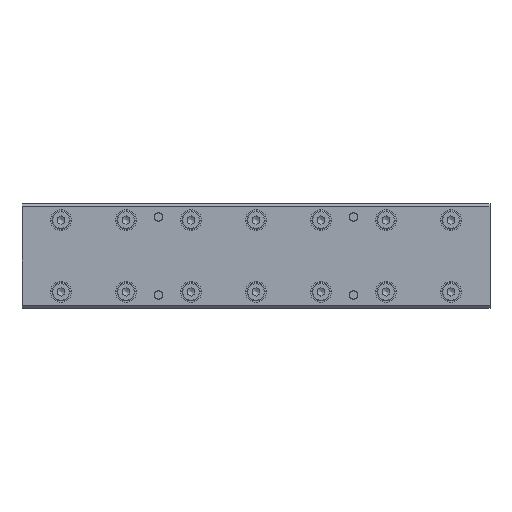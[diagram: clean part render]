
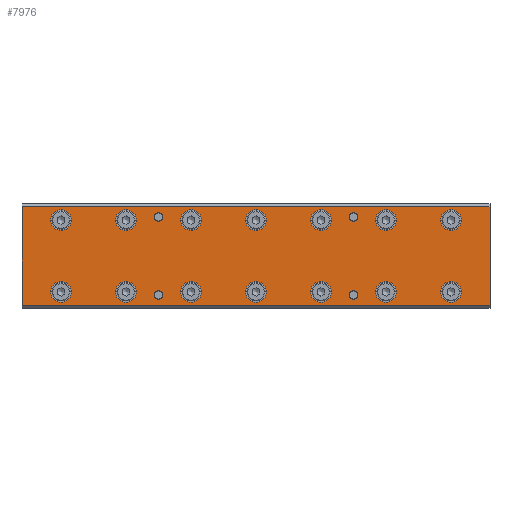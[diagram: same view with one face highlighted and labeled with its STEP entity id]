
A CAD part, top view. The second image highlights one B-rep face of the part: STEP entity #7976.
In plain terms, the highlighted planar face has unit normal (0, 0, 1).
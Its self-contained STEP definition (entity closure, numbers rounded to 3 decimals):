
#6554=CARTESIAN_POINT('',(180.0,19.,10.));
#6555=VERTEX_POINT('',#6554);
#6562=CARTESIAN_POINT('',(180.0,-19.,10.));
#6563=VERTEX_POINT('',#6562);
#6564=CARTESIAN_POINT('',(180.0,-19.,10.));
#6565=DIRECTION('',(0.0,1.0,0.0));
#6566=VECTOR('',#6565,38.0);
#6567=LINE('',#6564,#6566);
#6568=EDGE_CURVE('',#6563,#6555,#6567,.T.);
#6707=CARTESIAN_POINT('',(19.,-13.8,10.0));
#6708=VERTEX_POINT('',#6707);
#6709=CARTESIAN_POINT('',(15.,-13.8,10.));
#6710=DIRECTION('',(0.0,0.0,-1.0));
#6711=DIRECTION('',(1.0,0.0,0.0));
#6712=AXIS2_PLACEMENT_3D('',#6709,#6710,#6711);
#6713=CIRCLE('',#6712,4.0);
#6714=EDGE_CURVE('',#6708,#6708,#6713,.T.);
#6776=CARTESIAN_POINT('',(19.0,13.8,10.));
#6777=VERTEX_POINT('',#6776);
#6778=CARTESIAN_POINT('',(15.0,13.8,10.));
#6779=DIRECTION('',(0.0,0.0,-1.0));
#6780=DIRECTION('',(1.0,0.0,0.0));
#6781=AXIS2_PLACEMENT_3D('',#6778,#6779,#6780);
#6782=CIRCLE('',#6781,4.0);
#6783=EDGE_CURVE('',#6777,#6777,#6782,.T.);
#6857=CARTESIAN_POINT('',(44.0,-13.8,10.0));
#6858=VERTEX_POINT('',#6857);
#6859=CARTESIAN_POINT('',(40.,-13.8,10.));
#6860=DIRECTION('',(0.0,0.0,-1.0));
#6861=DIRECTION('',(1.0,0.0,0.0));
#6862=AXIS2_PLACEMENT_3D('',#6859,#6860,#6861);
#6863=CIRCLE('',#6862,4.0);
#6864=EDGE_CURVE('',#6858,#6858,#6863,.T.);
#6898=CARTESIAN_POINT('',(44.0,13.8,10.));
#6899=VERTEX_POINT('',#6898);
#6900=CARTESIAN_POINT('',(40.0,13.8,10.));
#6901=DIRECTION('',(0.0,0.0,-1.0));
#6902=DIRECTION('',(1.0,0.0,0.0));
#6903=AXIS2_PLACEMENT_3D('',#6900,#6901,#6902);
#6904=CIRCLE('',#6903,4.0);
#6905=EDGE_CURVE('',#6899,#6899,#6904,.T.);
#6979=CARTESIAN_POINT('',(69.0,-13.8,10.0));
#6980=VERTEX_POINT('',#6979);
#6981=CARTESIAN_POINT('',(65.,-13.8,10.));
#6982=DIRECTION('',(0.0,0.0,-1.0));
#6983=DIRECTION('',(1.0,0.0,0.0));
#6984=AXIS2_PLACEMENT_3D('',#6981,#6982,#6983);
#6985=CIRCLE('',#6984,4.0);
#6986=EDGE_CURVE('',#6980,#6980,#6985,.T.);
#7020=CARTESIAN_POINT('',(69.0,13.8,10.));
#7021=VERTEX_POINT('',#7020);
#7022=CARTESIAN_POINT('',(65.0,13.8,10.));
#7023=DIRECTION('',(0.0,0.0,-1.0));
#7024=DIRECTION('',(1.0,0.0,0.0));
#7025=AXIS2_PLACEMENT_3D('',#7022,#7023,#7024);
#7026=CIRCLE('',#7025,4.0);
#7027=EDGE_CURVE('',#7021,#7021,#7026,.T.);
#7101=CARTESIAN_POINT('',(94.0,-13.8,10.0));
#7102=VERTEX_POINT('',#7101);
#7103=CARTESIAN_POINT('',(90.0,-13.8,10.));
#7104=DIRECTION('',(0.0,0.0,-1.0));
#7105=DIRECTION('',(1.0,0.0,0.0));
#7106=AXIS2_PLACEMENT_3D('',#7103,#7104,#7105);
#7107=CIRCLE('',#7106,4.0);
#7108=EDGE_CURVE('',#7102,#7102,#7107,.T.);
#7142=CARTESIAN_POINT('',(94.0,13.8,10.));
#7143=VERTEX_POINT('',#7142);
#7144=CARTESIAN_POINT('',(90.0,13.8,10.));
#7145=DIRECTION('',(0.0,0.0,-1.0));
#7146=DIRECTION('',(1.0,0.0,0.0));
#7147=AXIS2_PLACEMENT_3D('',#7144,#7145,#7146);
#7148=CIRCLE('',#7147,4.0);
#7149=EDGE_CURVE('',#7143,#7143,#7148,.T.);
#7223=CARTESIAN_POINT('',(119.0,-13.8,10.0));
#7224=VERTEX_POINT('',#7223);
#7225=CARTESIAN_POINT('',(115.0,-13.8,10.));
#7226=DIRECTION('',(0.0,0.0,-1.0));
#7227=DIRECTION('',(1.0,0.0,0.0));
#7228=AXIS2_PLACEMENT_3D('',#7225,#7226,#7227);
#7229=CIRCLE('',#7228,4.0);
#7230=EDGE_CURVE('',#7224,#7224,#7229,.T.);
#7264=CARTESIAN_POINT('',(119.0,13.8,10.));
#7265=VERTEX_POINT('',#7264);
#7266=CARTESIAN_POINT('',(115.0,13.8,10.));
#7267=DIRECTION('',(0.0,0.0,-1.0));
#7268=DIRECTION('',(1.0,0.0,0.0));
#7269=AXIS2_PLACEMENT_3D('',#7266,#7267,#7268);
#7270=CIRCLE('',#7269,4.0);
#7271=EDGE_CURVE('',#7265,#7265,#7270,.T.);
#7345=CARTESIAN_POINT('',(144.0,-13.8,10.0));
#7346=VERTEX_POINT('',#7345);
#7347=CARTESIAN_POINT('',(140.0,-13.8,10.));
#7348=DIRECTION('',(0.0,0.0,-1.0));
#7349=DIRECTION('',(1.0,0.0,0.0));
#7350=AXIS2_PLACEMENT_3D('',#7347,#7348,#7349);
#7351=CIRCLE('',#7350,4.0);
#7352=EDGE_CURVE('',#7346,#7346,#7351,.T.);
#7386=CARTESIAN_POINT('',(144.0,13.8,10.));
#7387=VERTEX_POINT('',#7386);
#7388=CARTESIAN_POINT('',(140.0,13.8,10.));
#7389=DIRECTION('',(0.0,0.0,-1.0));
#7390=DIRECTION('',(1.0,0.0,0.0));
#7391=AXIS2_PLACEMENT_3D('',#7388,#7389,#7390);
#7392=CIRCLE('',#7391,4.0);
#7393=EDGE_CURVE('',#7387,#7387,#7392,.T.);
#7467=CARTESIAN_POINT('',(169.,-13.8,10.0));
#7468=VERTEX_POINT('',#7467);
#7469=CARTESIAN_POINT('',(165.0,-13.8,10.));
#7470=DIRECTION('',(0.0,0.0,-1.0));
#7471=DIRECTION('',(1.0,0.0,0.0));
#7472=AXIS2_PLACEMENT_3D('',#7469,#7470,#7471);
#7473=CIRCLE('',#7472,4.0);
#7474=EDGE_CURVE('',#7468,#7468,#7473,.T.);
#7508=CARTESIAN_POINT('',(169.,13.8,10.));
#7509=VERTEX_POINT('',#7508);
#7510=CARTESIAN_POINT('',(165.0,13.8,10.));
#7511=DIRECTION('',(0.0,0.0,-1.0));
#7512=DIRECTION('',(1.0,0.0,0.0));
#7513=AXIS2_PLACEMENT_3D('',#7510,#7511,#7512);
#7514=CIRCLE('',#7513,4.0);
#7515=EDGE_CURVE('',#7509,#7509,#7514,.T.);
#7580=CARTESIAN_POINT('',(54.121,-15.,10.0));
#7581=VERTEX_POINT('',#7580);
#7582=CARTESIAN_POINT('',(52.5,-15.,10.0));
#7583=DIRECTION('',(0.0,0.0,-1.0));
#7584=DIRECTION('',(1.0,0.0,0.0));
#7585=AXIS2_PLACEMENT_3D('',#7582,#7583,#7584);
#7586=CIRCLE('',#7585,1.621);
#7587=EDGE_CURVE('',#7581,#7581,#7586,.T.);
#7629=CARTESIAN_POINT('',(54.121,15.,10.));
#7630=VERTEX_POINT('',#7629);
#7631=CARTESIAN_POINT('',(52.5,15.,10.));
#7632=DIRECTION('',(0.0,0.0,-1.0));
#7633=DIRECTION('',(1.0,0.0,0.0));
#7634=AXIS2_PLACEMENT_3D('',#7631,#7632,#7633);
#7635=CIRCLE('',#7634,1.621);
#7636=EDGE_CURVE('',#7630,#7630,#7635,.T.);
#7678=CARTESIAN_POINT('',(129.121,-15.,10.0));
#7679=VERTEX_POINT('',#7678);
#7680=CARTESIAN_POINT('',(127.5,-15.,10.0));
#7681=DIRECTION('',(0.0,0.0,-1.0));
#7682=DIRECTION('',(1.0,0.0,0.0));
#7683=AXIS2_PLACEMENT_3D('',#7680,#7681,#7682);
#7684=CIRCLE('',#7683,1.621);
#7685=EDGE_CURVE('',#7679,#7679,#7684,.T.);
#7727=CARTESIAN_POINT('',(129.121,15.,10.));
#7728=VERTEX_POINT('',#7727);
#7729=CARTESIAN_POINT('',(127.5,15.,10.));
#7730=DIRECTION('',(0.0,0.0,-1.0));
#7731=DIRECTION('',(1.0,0.0,0.0));
#7732=AXIS2_PLACEMENT_3D('',#7729,#7730,#7731);
#7733=CIRCLE('',#7732,1.621);
#7734=EDGE_CURVE('',#7728,#7728,#7733,.T.);
#7882=CARTESIAN_POINT('',(0.,19.0,10.));
#7883=VERTEX_POINT('',#7882);
#7890=CARTESIAN_POINT('',(0.,19.0,10.));
#7891=DIRECTION('',(1.0,0.0,0.0));
#7892=VECTOR('',#7891,180.0);
#7893=LINE('',#7890,#7892);
#7894=EDGE_CURVE('',#7883,#6555,#7893,.T.);
#7899=CARTESIAN_POINT('',(0.,-20.0,10.));
#7900=DIRECTION('',(0.0,0.0,1.0));
#7901=DIRECTION('',(1.0,0.0,0.0));
#7902=AXIS2_PLACEMENT_3D('',#7899,#7900,#7901);
#7903=PLANE('',#7902);
#7904=CARTESIAN_POINT('',(0.,-19.0,10.));
#7905=VERTEX_POINT('',#7904);
#7906=CARTESIAN_POINT('',(180.0,-19.,10.));
#7907=DIRECTION('',(-1.0,0.0,0.0));
#7908=VECTOR('',#7907,180.0);
#7909=LINE('',#7906,#7908);
#7910=EDGE_CURVE('',#6563,#7905,#7909,.T.);
#7911=ORIENTED_EDGE('',*,*,#7910,.F.);
#7912=ORIENTED_EDGE('',*,*,#6568,.T.);
#7913=ORIENTED_EDGE('',*,*,#7894,.F.);
#7914=CARTESIAN_POINT('',(0.,19.0,10.));
#7915=DIRECTION('',(0.0,-1.0,0.0));
#7916=VECTOR('',#7915,38.0);
#7917=LINE('',#7914,#7916);
#7918=EDGE_CURVE('',#7883,#7905,#7917,.T.);
#7919=ORIENTED_EDGE('',*,*,#7918,.T.);
#7920=EDGE_LOOP('',(#7911,#7912,#7913,#7919));
#7921=FACE_OUTER_BOUND('',#7920,.T.);
#7922=ORIENTED_EDGE('',*,*,#7734,.T.);
#7923=EDGE_LOOP('',(#7922));
#7924=FACE_BOUND('',#7923,.T.);
#7925=ORIENTED_EDGE('',*,*,#7685,.T.);
#7926=EDGE_LOOP('',(#7925));
#7927=FACE_BOUND('',#7926,.T.);
#7928=ORIENTED_EDGE('',*,*,#7636,.T.);
#7929=EDGE_LOOP('',(#7928));
#7930=FACE_BOUND('',#7929,.T.);
#7931=ORIENTED_EDGE('',*,*,#7587,.T.);
#7932=EDGE_LOOP('',(#7931));
#7933=FACE_BOUND('',#7932,.T.);
#7934=ORIENTED_EDGE('',*,*,#7515,.T.);
#7935=EDGE_LOOP('',(#7934));
#7936=FACE_BOUND('',#7935,.T.);
#7937=ORIENTED_EDGE('',*,*,#7474,.T.);
#7938=EDGE_LOOP('',(#7937));
#7939=FACE_BOUND('',#7938,.T.);
#7940=ORIENTED_EDGE('',*,*,#7393,.T.);
#7941=EDGE_LOOP('',(#7940));
#7942=FACE_BOUND('',#7941,.T.);
#7943=ORIENTED_EDGE('',*,*,#7352,.T.);
#7944=EDGE_LOOP('',(#7943));
#7945=FACE_BOUND('',#7944,.T.);
#7946=ORIENTED_EDGE('',*,*,#7271,.T.);
#7947=EDGE_LOOP('',(#7946));
#7948=FACE_BOUND('',#7947,.T.);
#7949=ORIENTED_EDGE('',*,*,#7230,.T.);
#7950=EDGE_LOOP('',(#7949));
#7951=FACE_BOUND('',#7950,.T.);
#7952=ORIENTED_EDGE('',*,*,#7149,.T.);
#7953=EDGE_LOOP('',(#7952));
#7954=FACE_BOUND('',#7953,.T.);
#7955=ORIENTED_EDGE('',*,*,#7108,.T.);
#7956=EDGE_LOOP('',(#7955));
#7957=FACE_BOUND('',#7956,.T.);
#7958=ORIENTED_EDGE('',*,*,#7027,.T.);
#7959=EDGE_LOOP('',(#7958));
#7960=FACE_BOUND('',#7959,.T.);
#7961=ORIENTED_EDGE('',*,*,#6986,.T.);
#7962=EDGE_LOOP('',(#7961));
#7963=FACE_BOUND('',#7962,.T.);
#7964=ORIENTED_EDGE('',*,*,#6905,.T.);
#7965=EDGE_LOOP('',(#7964));
#7966=FACE_BOUND('',#7965,.T.);
#7967=ORIENTED_EDGE('',*,*,#6864,.T.);
#7968=EDGE_LOOP('',(#7967));
#7969=FACE_BOUND('',#7968,.T.);
#7970=ORIENTED_EDGE('',*,*,#6783,.T.);
#7971=EDGE_LOOP('',(#7970));
#7972=FACE_BOUND('',#7971,.T.);
#7973=ORIENTED_EDGE('',*,*,#6714,.T.);
#7974=EDGE_LOOP('',(#7973));
#7975=FACE_BOUND('',#7974,.T.);
#7976=ADVANCED_FACE('',(#7921,#7924,#7927,#7930,#7933,#7936,#7939,#7942,#7945,#7948,#7951,#7954,#7957,#7960,#7963,#7966,#7969,#7972,#7975),#7903,.T.);
